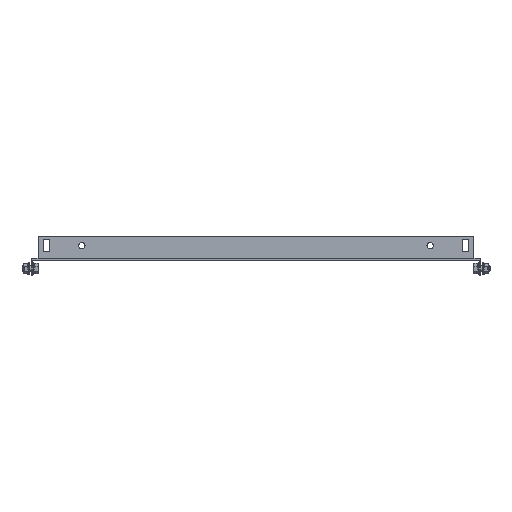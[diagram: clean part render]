
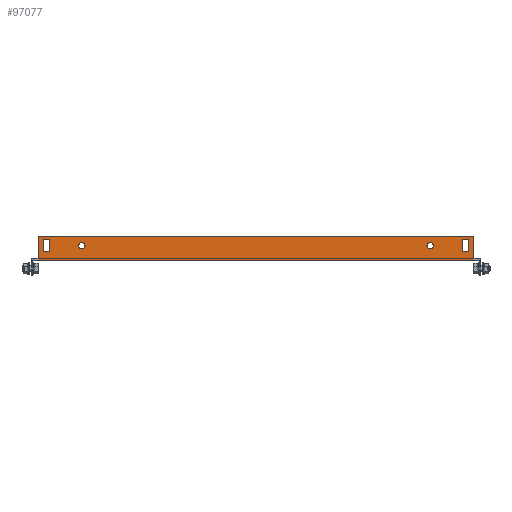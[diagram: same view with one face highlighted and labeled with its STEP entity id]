
A CAD part, front view. The second image highlights one B-rep face of the part: STEP entity #97077.
In plain terms, the highlighted planar face has unit normal (0, -1, 0).
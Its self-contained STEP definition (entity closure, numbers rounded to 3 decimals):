
#88702 = VERTEX_POINT('',#88703);
#88703 = CARTESIAN_POINT('',(242.,-384.5,0.));
#88709 = EDGE_CURVE('',#88710,#88702,#88712,.T.);
#88710 = VERTEX_POINT('',#88711);
#88711 = CARTESIAN_POINT('',(-242.,-384.5,0.));
#88712 = LINE('',#88713,#88714);
#88713 = CARTESIAN_POINT('',(-242.,-384.5,0.));
#88714 = VECTOR('',#88715,1.);
#88715 = DIRECTION('',(1.,-0.,-0.));
#96956 = VERTEX_POINT('',#96957);
#96957 = CARTESIAN_POINT('',(-242.,-384.5,2.6));
#96972 = EDGE_CURVE('',#96956,#88710,#96973,.T.);
#96973 = LINE('',#96974,#96975);
#96974 = CARTESIAN_POINT('',(-242.,-384.5,2.6));
#96975 = VECTOR('',#96976,1.);
#96976 = DIRECTION('',(0.,0.,-1.));
#96996 = VERTEX_POINT('',#96997);
#96997 = CARTESIAN_POINT('',(242.,-384.5,2.6));
#97003 = EDGE_CURVE('',#96996,#88702,#97004,.T.);
#97004 = LINE('',#97005,#97006);
#97005 = CARTESIAN_POINT('',(242.,-384.5,2.));
#97006 = VECTOR('',#97007,1.);
#97007 = DIRECTION('',(-0.,0.,-1.));
#97029 = VERTEX_POINT('',#97030);
#97030 = CARTESIAN_POINT('',(242.,-384.5,26.));
#97036 = EDGE_CURVE('',#96996,#97029,#97037,.T.);
#97037 = LINE('',#97038,#97039);
#97038 = CARTESIAN_POINT('',(242.,-384.5,26.));
#97039 = VECTOR('',#97040,1.);
#97040 = DIRECTION('',(-0.,0.,1.));
#97051 = EDGE_CURVE('',#97052,#96956,#97054,.T.);
#97052 = VERTEX_POINT('',#97053);
#97053 = CARTESIAN_POINT('',(-242.,-384.5,26.));
#97054 = LINE('',#97055,#97056);
#97055 = CARTESIAN_POINT('',(-242.,-384.5,2.));
#97056 = VECTOR('',#97057,1.);
#97057 = DIRECTION('',(-0.,0.,-1.));
#97077 = ADVANCED_FACE('',(#97078,#97112,#97123,#97134,#97168),#97181,
  .F.);
#97078 = FACE_BOUND('',#97079,.T.);
#97079 = EDGE_LOOP('',(#97080,#97090,#97098,#97106));
#97080 = ORIENTED_EDGE('',*,*,#97081,.F.);
#97081 = EDGE_CURVE('',#97082,#97084,#97086,.T.);
#97082 = VERTEX_POINT('',#97083);
#97083 = CARTESIAN_POINT('',(236.5,-384.5,9.));
#97084 = VERTEX_POINT('',#97085);
#97085 = CARTESIAN_POINT('',(236.5,-384.5,23.));
#97086 = LINE('',#97087,#97088);
#97087 = CARTESIAN_POINT('',(236.5,-384.5,23.));
#97088 = VECTOR('',#97089,1.);
#97089 = DIRECTION('',(-0.,-0.,1.));
#97090 = ORIENTED_EDGE('',*,*,#97091,.F.);
#97091 = EDGE_CURVE('',#97092,#97082,#97094,.T.);
#97092 = VERTEX_POINT('',#97093);
#97093 = CARTESIAN_POINT('',(229.5,-384.5,9.));
#97094 = LINE('',#97095,#97096);
#97095 = CARTESIAN_POINT('',(236.5,-384.5,9.));
#97096 = VECTOR('',#97097,1.);
#97097 = DIRECTION('',(1.,-0.,-0.));
#97098 = ORIENTED_EDGE('',*,*,#97099,.F.);
#97099 = EDGE_CURVE('',#97100,#97092,#97102,.T.);
#97100 = VERTEX_POINT('',#97101);
#97101 = CARTESIAN_POINT('',(229.5,-384.5,23.));
#97102 = LINE('',#97103,#97104);
#97103 = CARTESIAN_POINT('',(229.5,-384.5,9.));
#97104 = VECTOR('',#97105,1.);
#97105 = DIRECTION('',(0.,-0.,-1.));
#97106 = ORIENTED_EDGE('',*,*,#97107,.F.);
#97107 = EDGE_CURVE('',#97084,#97100,#97108,.T.);
#97108 = LINE('',#97109,#97110);
#97109 = CARTESIAN_POINT('',(229.5,-384.5,23.));
#97110 = VECTOR('',#97111,1.);
#97111 = DIRECTION('',(-1.,-0.,-0.));
#97112 = FACE_BOUND('',#97113,.T.);
#97113 = EDGE_LOOP('',(#97114));
#97114 = ORIENTED_EDGE('',*,*,#97115,.F.);
#97115 = EDGE_CURVE('',#97116,#97116,#97118,.T.);
#97116 = VERTEX_POINT('',#97117);
#97117 = CARTESIAN_POINT('',(193.5,-384.5,19.5));
#97118 = CIRCLE('',#97119,3.5);
#97119 = AXIS2_PLACEMENT_3D('',#97120,#97121,#97122);
#97120 = CARTESIAN_POINT('',(193.5,-384.5,16.));
#97121 = DIRECTION('',(0.,-1.,0.));
#97122 = DIRECTION('',(0.,0.,1.));
#97123 = FACE_BOUND('',#97124,.T.);
#97124 = EDGE_LOOP('',(#97125));
#97125 = ORIENTED_EDGE('',*,*,#97126,.F.);
#97126 = EDGE_CURVE('',#97127,#97127,#97129,.T.);
#97127 = VERTEX_POINT('',#97128);
#97128 = CARTESIAN_POINT('',(-193.5,-384.5,12.5));
#97129 = CIRCLE('',#97130,3.5);
#97130 = AXIS2_PLACEMENT_3D('',#97131,#97132,#97133);
#97131 = CARTESIAN_POINT('',(-193.5,-384.5,16.));
#97132 = DIRECTION('',(0.,-1.,0.));
#97133 = DIRECTION('',(0.,0.,-1.));
#97134 = FACE_BOUND('',#97135,.T.);
#97135 = EDGE_LOOP('',(#97136,#97146,#97154,#97162));
#97136 = ORIENTED_EDGE('',*,*,#97137,.F.);
#97137 = EDGE_CURVE('',#97138,#97140,#97142,.T.);
#97138 = VERTEX_POINT('',#97139);
#97139 = CARTESIAN_POINT('',(-236.5,-384.5,23.));
#97140 = VERTEX_POINT('',#97141);
#97141 = CARTESIAN_POINT('',(-236.5,-384.5,9.));
#97142 = LINE('',#97143,#97144);
#97143 = CARTESIAN_POINT('',(-236.5,-384.5,9.));
#97144 = VECTOR('',#97145,1.);
#97145 = DIRECTION('',(-0.,-0.,-1.));
#97146 = ORIENTED_EDGE('',*,*,#97147,.F.);
#97147 = EDGE_CURVE('',#97148,#97138,#97150,.T.);
#97148 = VERTEX_POINT('',#97149);
#97149 = CARTESIAN_POINT('',(-229.5,-384.5,23.));
#97150 = LINE('',#97151,#97152);
#97151 = CARTESIAN_POINT('',(-236.5,-384.5,23.));
#97152 = VECTOR('',#97153,1.);
#97153 = DIRECTION('',(-1.,-0.,-0.));
#97154 = ORIENTED_EDGE('',*,*,#97155,.F.);
#97155 = EDGE_CURVE('',#97156,#97148,#97158,.T.);
#97156 = VERTEX_POINT('',#97157);
#97157 = CARTESIAN_POINT('',(-229.5,-384.5,9.));
#97158 = LINE('',#97159,#97160);
#97159 = CARTESIAN_POINT('',(-229.5,-384.5,23.));
#97160 = VECTOR('',#97161,1.);
#97161 = DIRECTION('',(-0.,-0.,1.));
#97162 = ORIENTED_EDGE('',*,*,#97163,.F.);
#97163 = EDGE_CURVE('',#97140,#97156,#97164,.T.);
#97164 = LINE('',#97165,#97166);
#97165 = CARTESIAN_POINT('',(-229.5,-384.5,9.));
#97166 = VECTOR('',#97167,1.);
#97167 = DIRECTION('',(1.,-0.,-0.));
#97168 = FACE_BOUND('',#97169,.T.);
#97169 = EDGE_LOOP('',(#97170,#97171,#97172,#97173,#97174,#97175));
#97170 = ORIENTED_EDGE('',*,*,#97051,.T.);
#97171 = ORIENTED_EDGE('',*,*,#96972,.T.);
#97172 = ORIENTED_EDGE('',*,*,#88709,.T.);
#97173 = ORIENTED_EDGE('',*,*,#97003,.F.);
#97174 = ORIENTED_EDGE('',*,*,#97036,.T.);
#97175 = ORIENTED_EDGE('',*,*,#97176,.T.);
#97176 = EDGE_CURVE('',#97029,#97052,#97177,.T.);
#97177 = LINE('',#97178,#97179);
#97178 = CARTESIAN_POINT('',(-242.,-384.5,26.));
#97179 = VECTOR('',#97180,1.);
#97180 = DIRECTION('',(-1.,-0.,-0.));
#97181 = PLANE('',#97182);
#97182 = AXIS2_PLACEMENT_3D('',#97183,#97184,#97185);
#97183 = CARTESIAN_POINT('',(242.,-384.5,2.));
#97184 = DIRECTION('',(-0.,1.,0.));
#97185 = DIRECTION('',(0.,0.,1.));
